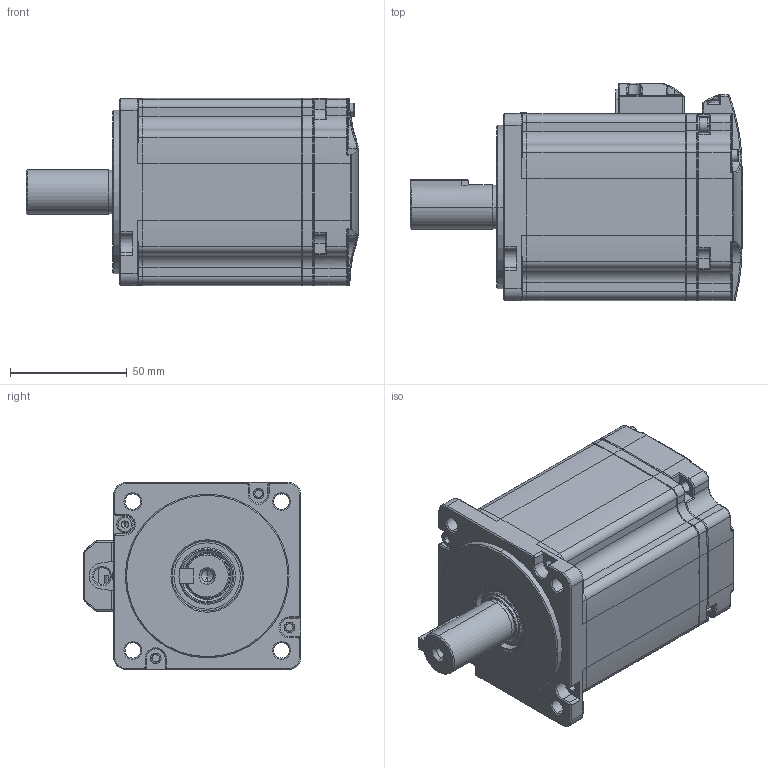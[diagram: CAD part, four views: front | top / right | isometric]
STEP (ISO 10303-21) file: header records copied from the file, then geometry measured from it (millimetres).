
FILE_DESCRIPTION (( 'STEP AP203' ), '1' );
FILE_NAME ('EM3J-08AL（非抱闸）.STEP', '2023-11-17T07:20:07', ( '' ), ( '' ), 'SwSTEP 2.0', 'SolidWorks 2018', '' );
FILE_SCHEMA (( 'CONFIG_CONTROL_DESIGN' ));
Products named in the file (1): EM3J-08AL（非抱闸）
Bounding box: 142 x 93 x 80 mm (x, y, z)
Volume: 281266.8 mm3; surface area: 145013.5 mm2
Topology: 26 solids, 26 shells, 2032 faces, 4975 edges, 3001 vertices
Faces by surface type: cylinder 667, plane 618, cone 284, torus 224, bspline 150, sphere 89
Entity records: 65498 total; most frequent: CARTESIAN_POINT 17633, DIRECTION 10410, ORIENTED_EDGE 9830, EDGE_CURVE 4915, AXIS2_PLACEMENT_3D 4099, VERTEX_POINT 3000, EDGE_LOOP 2235, CIRCLE 2216
